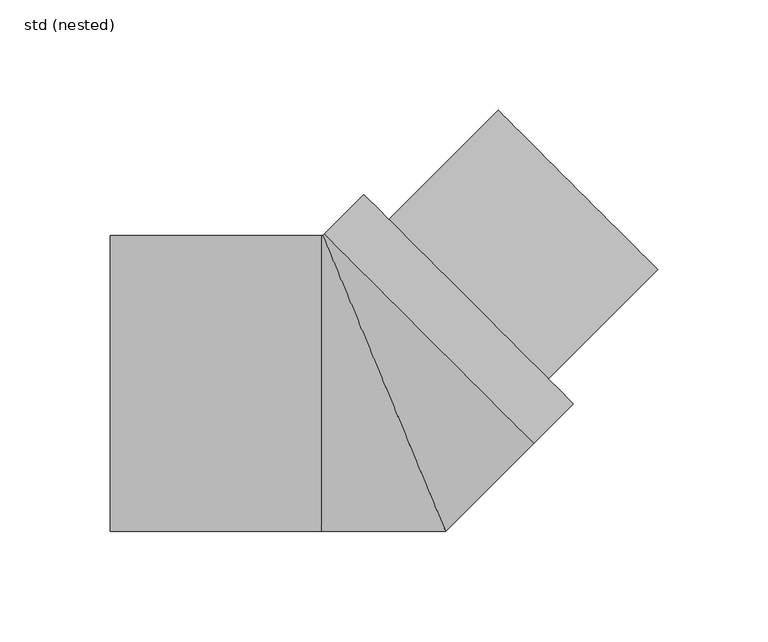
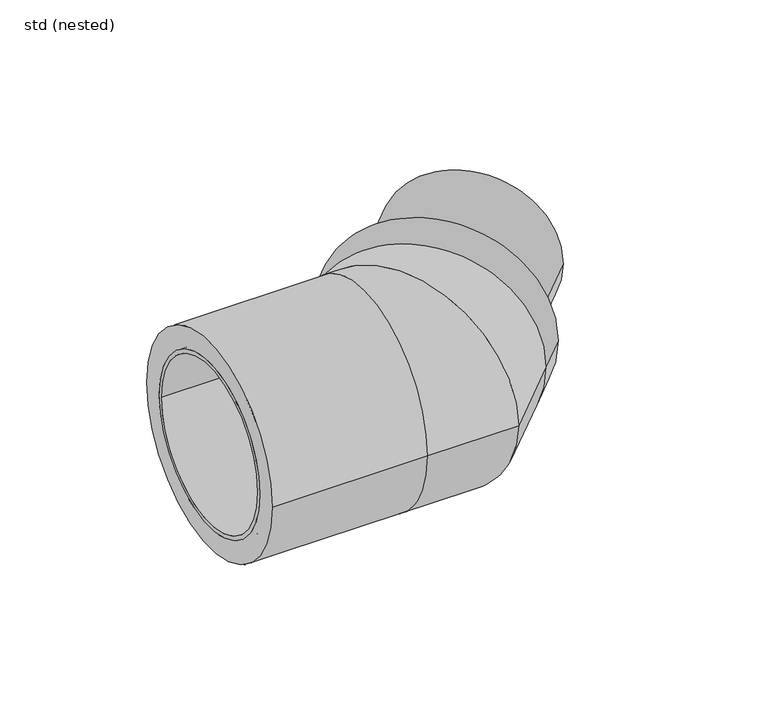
"""IFC4 building model written with IfcOpenShell, lengths in millimetres: pipe fitting geometry, ZZZ_do not use_PIF_ST_WPB_GM-X compound pipe bend_ACO : std (nested)."""

from ifc_helpers import new_model, si_unit, point, frame, frame_2d, origin, place, context, project, spatial, polyline, circle_curve, ellipse_curve, trimmed, segment, composite_curve, outline, extrude, source, transform, mapped, element, save
from ifc_brep_helpers import plane_surface, cylinder_surface, revolved_surface, advanced_brep


def std_nested_eab692b6(model_context):
    return source(origin(), model_context, "Body", "SolidModel", [
        advanced_brep(
        [(-115.7, -59.0, 0.0), (-115.7, 59.0, 0.0), (-87.0, 59.0, 0.0), (-87.0, -59.0, 0.0), (-124.0, 53.5, 0.0), (-124.0, -53.5, 0.0), (-124.0, -51.0, 0.0), (-124.0, 51.0, 0.0), (-54.0, 53.5, 0.0), (-54.0, -53.5, 0.0), (-54.0, 51.0, 0.0), (-54.0, -51.0, 0.0), (-115.7, 53.5, 0.0), (-115.7, -53.5, 0.0), (-87.0, -53.5, 0.0), (-87.0, 53.5, 0.0)],
        [
            (0, 1, circle_curve(frame((-115.7, 0.0, 0.0), z_axis=(1.0, 0.0, 0.0), x_axis=(0.0, -1.0, 0.0)), 59.0)),
            (1, 2),
            (2, 3, circle_curve(frame((-87.0, 0.0, 0.0), z_axis=(-1.0, 0.0, 0.0), x_axis=(0.0, -1.0, 0.0)), 59.0)),
            (3, 0),
            (1, 0, circle_curve(frame((-115.7, 0.0, 0.0), z_axis=(1.0, 0.0, 0.0), x_axis=(0.0, -1.0, 0.0)), 59.0)),
            (3, 2, circle_curve(frame((-87.0, 0.0, 0.0), z_axis=(-1.0, 0.0, 0.0), x_axis=(0.0, -1.0, 0.0)), 59.0)),
            (4, 5, circle_curve(frame((-124.0, 0.0, 0.0), z_axis=(-1.0, 0.0, 0.0), x_axis=(0.0, -1.0, 0.0)), 53.5)),
            (5, 4, circle_curve(frame((-124.0, 0.0, 0.0), z_axis=(-1.0, 0.0, 0.0), x_axis=(0.0, -1.0, 0.0)), 53.5)),
            (6, 7, circle_curve(frame((-124.0, 0.0, 0.0), z_axis=(1.0, 0.0, 0.0), x_axis=(0.0, -1.0, 0.0)), 51.0)),
            (7, 6, circle_curve(frame((-124.0, 0.0, 0.0), z_axis=(1.0, 0.0, 0.0), x_axis=(0.0, -1.0, 0.0)), 51.0)),
            (8, 9, circle_curve(frame((-54.0, 0.0, 0.0), z_axis=(1.0, 0.0, 0.0), x_axis=(0.0, -1.0, 0.0)), 53.5)),
            (9, 8, circle_curve(frame((-54.0, 0.0, 0.0), z_axis=(1.0, 0.0, 0.0), x_axis=(0.0, -1.0, 0.0)), 53.5)),
            (10, 11, circle_curve(frame((-54.0, 0.0, 0.0), z_axis=(-1.0, 0.0, 0.0), x_axis=(0.0, -1.0, 0.0)), 51.0)),
            (11, 10, circle_curve(frame((-54.0, 0.0, 0.0), z_axis=(-1.0, 0.0, 0.0), x_axis=(0.0, -1.0, 0.0)), 51.0)),
            (4, 12),
            (12, 13, circle_curve(frame((-115.7, 0.0, 0.0), z_axis=(-1.0, 0.0, 0.0), x_axis=(0.0, -1.0, 0.0)), 53.5)),
            (13, 5),
            (9, 14),
            (14, 15, circle_curve(frame((-87.0, 0.0, 0.0), z_axis=(1.0, 0.0, 0.0), x_axis=(0.0, -1.0, 0.0)), 53.5)),
            (15, 8),
            (13, 12, circle_curve(frame((-115.7, 0.0, 0.0), z_axis=(-1.0, 0.0, 0.0), x_axis=(0.0, -1.0, 0.0)), 53.5)),
            (15, 14, circle_curve(frame((-87.0, 0.0, 0.0), z_axis=(1.0, 0.0, 0.0), x_axis=(0.0, -1.0, 0.0)), 53.5)),
            (6, 11),
            (10, 7),
        ],
        [
            cylinder_surface(frame((-87.0, 0.0, 0.0), z_axis=(-1.0, 0.0, 0.0), x_axis=(0.0, -1.0, 0.0)), 59.0),
            plane_surface(frame((-124.0, -53.5, 0.0), z_axis=(-1.0, 0.0, 0.0), x_axis=(0.0, 0.0, 1.0))),
            plane_surface(frame((-54.0, -53.5, 0.0), z_axis=(1.0, 0.0, 0.0), x_axis=(0.0, 0.0, -1.0))),
            cylinder_surface(frame((-54.0, 0.0, 0.0), z_axis=(-1.0, 0.0, 0.0), x_axis=(0.0, -1.0, 0.0)), 53.5),
            revolved_surface(polyline([(-124.0, -51.0, 0.0), (-54.0, -51.0, 0.0)]), (-54.0, 0.0, 0.0), (-1.0, 0.0, 0.0)),
            plane_surface(frame((-115.7, -59.0, 0.0), z_axis=(-1.0, 0.0, 0.0), x_axis=(0.0, 0.0, 1.0))),
            plane_surface(frame((-87.0, -59.0, 0.0), z_axis=(1.0, 0.0, 0.0), x_axis=(0.0, 0.0, -1.0))),
        ],
        [
            (0, [[1, 2, 3, 4]]),
            (0, [[5, -4, 6, -2]]),
            (1, [[7, 8], [9, 10]]),
            (2, [[11, 12], [13, 14]]),
            (3, [[-7, 15, 16, 17]]),
            (3, [[-12, 18, 19, 20]]),
            (3, [[-8, -17, 21, -15]]),
            (3, [[-11, -20, 22, -18]]),
            (4, [[23, -13, 24, -9]]),
            (4, [[-23, -10, -24, -14]]),
            (5, [[-1, -5], [-16, -21]]),
            (6, [[-6, -3], [-19, -22]]),
        ],
    ),
        extrude(outline(composite_curve([segment(trimmed(circle_curve(frame_2d((0.0, -51.0)), 51.0), [point((0.0, -102.0))], [point((0.0, 0.0))], False, "CARTESIAN"), True, "CONTINUOUS"), segment(trimmed(circle_curve(frame_2d((0.0, -51.0)), 51.0), [point((0.0, 0.0))], [point((0.0, -102.0))], False, "CARTESIAN"), True, "CONTINUOUS")], self_intersect=False)), frame((74.246212, 2.1213203, 0.0), z_axis=(0.7071067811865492, 0.7071067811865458, 0.0), x_axis=(0.0, 0.0, 1.0)), (0.0, 0.0, 1.0), 70.0),
        advanced_brep(
        [(-124.0, -67.0, 0.0), (-124.0, 67.0, 0.0), (-124.0, 53.5, 0.0), (-124.0, -53.5, 0.0), (-28.5807358, -67.0, 0.0), (-28.5807358, 67.0, 0.0), (27.7523087, -67.0, 0.0), (-27.7523087, 67.0, 0.0), (67.5857864, -27.1665222, 0.0), (-27.1665222, 67.5857864, 0.0), (-54.0, -53.5, 0.0), (-54.0, 53.5, 0.0), (-9.1923882, 85.5599205, 0.0), (85.5599205, -9.1923882, 0.0)],
        [
            (0, 1, circle_curve(frame((-124.0, 0.0, 0.0), z_axis=(-1.0, 0.0, 0.0), x_axis=(0.0, 1.0, 0.0)), 67.0)),
            (1, 0, circle_curve(frame((-124.0, 0.0, 0.0), z_axis=(-1.0, 0.0, 0.0), x_axis=(0.0, 1.0, 0.0)), 67.0)),
            (2, 3, circle_curve(frame((-124.0, 0.0, 0.0), z_axis=(1.0, 0.0, 0.0), x_axis=(0.0, 1.0, 0.0)), 53.5)),
            (3, 2, circle_curve(frame((-124.0, 0.0, 0.0), z_axis=(1.0, 0.0, 0.0), x_axis=(0.0, 1.0, 0.0)), 53.5)),
            (0, 4),
            (4, 5, circle_curve(frame((-28.5807358, 0.0, 0.0), z_axis=(-1.0, 0.0, 0.0), x_axis=(0.0, 1.0, 0.0)), 67.0)),
            (5, 1),
            (5, 4, circle_curve(frame((-28.5807358, 0.0, 0.0), z_axis=(-1.0, 0.0, 0.0), x_axis=(0.0, 1.0, 0.0)), 67.0)),
            (4, 6),
            (6, 7, ellipse_curve(frame((0.0, 0.0, 0.0), z_axis=(-0.9238795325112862, -0.3826834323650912, 0.0), x_axis=(-0.38268343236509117, 0.9238795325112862, 0.0)), 72.5202774, 67.0)),
            (7, 5),
            (7, 6, ellipse_curve(frame((0.0, 0.0, 0.0), z_axis=(-0.9238795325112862, -0.3826834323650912, 0.0), x_axis=(-0.38268343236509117, 0.9238795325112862, 0.0)), 72.5202774, 67.0)),
            (6, 8),
            (8, 9, circle_curve(frame((20.2096321, 20.2096321, 0.0), z_axis=(-0.7071067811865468, -0.7071067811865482, 0.0), x_axis=(-0.7071067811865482, 0.7071067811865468, 0.0)), 67.0)),
            (9, 7),
            (9, 8, circle_curve(frame((20.2096321, 20.2096321, 0.0), z_axis=(-0.7071067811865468, -0.7071067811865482, 0.0), x_axis=(-0.7071067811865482, 0.7071067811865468, 0.0)), 67.0)),
            (10, 11, circle_curve(frame((-54.0, 0.0, 0.0), z_axis=(-1.0, 0.0, 0.0), x_axis=(0.0, 1.0, 0.0)), 53.5)),
            (11, 10, circle_curve(frame((-54.0, 0.0, 0.0), z_axis=(-1.0, 0.0, 0.0), x_axis=(0.0, 1.0, 0.0)), 53.5)),
            (10, 3),
            (2, 11),
            (12, 13, circle_curve(frame((38.1837662, 38.1837662, 0.0), z_axis=(0.7071067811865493, 0.7071067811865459, 0.0), x_axis=(0.7071067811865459, -0.7071067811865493, 0.0)), 67.0)),
            (13, 12, circle_curve(frame((38.1837662, 38.1837662, 0.0), z_axis=(0.7071067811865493, 0.7071067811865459, 0.0), x_axis=(0.7071067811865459, -0.7071067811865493, 0.0)), 67.0)),
            (8, 13),
            (12, 9),
        ],
        [
            plane_surface(frame((-124.0, 67.0, 0.0), z_axis=(-1.0, 0.0, 0.0), x_axis=(0.0, 0.0, -1.0))),
            cylinder_surface(frame((-28.5807358, 0.0, 0.0), z_axis=(-1.0, 0.0, 0.0), x_axis=(0.0, 1.0, 0.0)), 67.0),
            cylinder_surface(frame((0.0, 0.0, 0.0), z_axis=(-0.7071067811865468, -0.7071067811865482, 0.0), x_axis=(-0.7071067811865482, 0.7071067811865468, 0.0)), 67.0),
            plane_surface(frame((-54.0, 53.5, 0.0), z_axis=(-1.0, 0.0, 0.0), x_axis=(0.0, 0.0, 1.0))),
            revolved_surface(polyline([(-124.0, 53.5, 0.0), (-54.0, 53.5, 0.0)]), (-54.0, 0.0, 0.0), (-1.0, 0.0, 0.0)),
            plane_surface(frame((85.5599205, -9.1923882, 0.0), z_axis=(0.7071067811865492, 0.7071067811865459, 0.0), x_axis=(0.0, 0.0, 1.0))),
            cylinder_surface(frame((20.2096321, 20.2096321, 0.0), z_axis=(0.7071067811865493, 0.7071067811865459, 0.0), x_axis=(0.7071067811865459, -0.7071067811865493, 0.0)), 67.0),
        ],
        [
            (0, [[1, 2], [3, 4]]),
            (1, [[-1, 5, 6, 7]]),
            (1, [[-2, -7, 8, -5]]),
            (1, [[9, 10, 11, -6]]),
            (1, [[-9, -8, -11, 12]]),
            (2, [[-10, 13, 14, 15]]),
            (2, [[-12, -15, 16, -13]]),
            (3, [[17, 18]]),
            (4, [[-17, 19, -3, 20]]),
            (4, [[-18, -20, -4, -19]]),
            (5, [[21, 22]]),
            (6, [[-14, 23, -21, 24]]),
            (6, [[-16, -24, -22, -23]]),
        ],
    ),
    ])


if __name__ == "__main__":
    model = new_model("IFC4")
    model_context = context("Model", 3, world=origin())
    ifc_project = project(units=[si_unit("LENGTHUNIT", "METRE", prefix="MILLI")], contexts=[model_context])
    site = spatial("IfcSite", under=ifc_project)
    building = spatial("IfcBuilding", under=site)
    placement = place(None, origin())
    std_nested_shape = std_nested_eab692b6(model_context)
    element("IfcPipeFitting", 1, ObjectType="ZZZ_do not use_PIF_ST_WPB_GM-X compound pipe bend_ACO : std (nested)", at=placement, inside=building, context=model_context, shape_type="MappedRepresentation", body=[
        mapped(std_nested_shape, transform((0.0, 0.0, 0.0), x_axis=(1.0, 0.0, 0.0), y_axis=(0.0, 1.0, 0.0), z_axis=(0.0, 0.0, 1.0))),
    ])
    save(model, "model.ifc")
